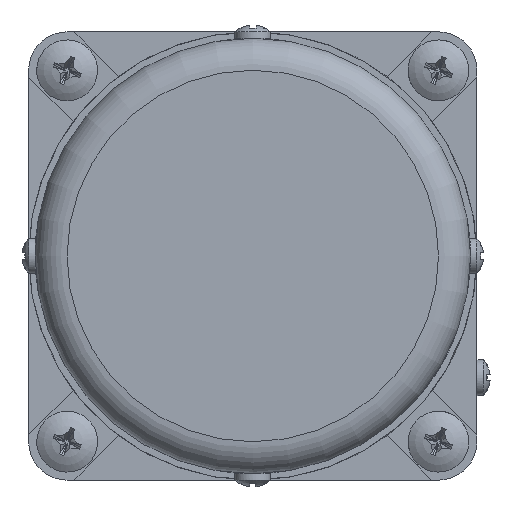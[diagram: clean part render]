
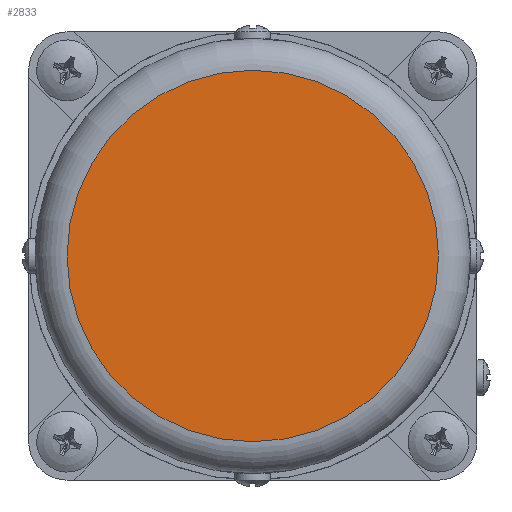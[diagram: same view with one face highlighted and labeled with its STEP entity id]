
A CAD part, left-side view. The second image highlights one B-rep face of the part: STEP entity #2833.
In plain terms, the highlighted planar face has unit normal (-1, 0, 0).
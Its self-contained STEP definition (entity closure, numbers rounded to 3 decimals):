
#1867=PLANE('',#8464);
#2833=ADVANCED_FACE('',(#3276),#1867,.T.);
#3276=FACE_OUTER_BOUND('',#3761,.T.);
#3761=EDGE_LOOP('',(#5170));
#5170=ORIENTED_EDGE('',*,*,#7152,.T.);
#6310=VERTEX_POINT('',#13456);
#7152=EDGE_CURVE('',#6310,#6310,#7718,.T.);
#7718=CIRCLE('',#8463,29.);
#8463=AXIS2_PLACEMENT_3D('',#13455,#9635,#9636);
#8464=AXIS2_PLACEMENT_3D('',#13457,#9637,#9638);
#9635=DIRECTION('',(-1.,0.,0.));
#9636=DIRECTION('',(0.,0.,-1.));
#9637=DIRECTION('',(-1.,0.,0.));
#9638=DIRECTION('',(0.,0.,-1.));
#13455=CARTESIAN_POINT('',(-136.,0.,0.));
#13456=CARTESIAN_POINT('',(-136.,0.,-29.));
#13457=CARTESIAN_POINT('',(-136.,0.,0.));
